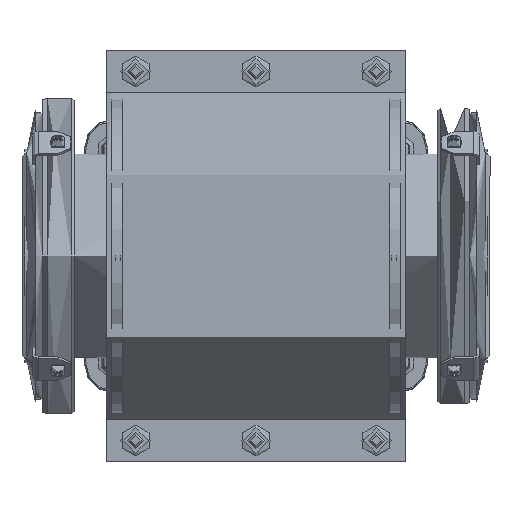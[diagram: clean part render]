
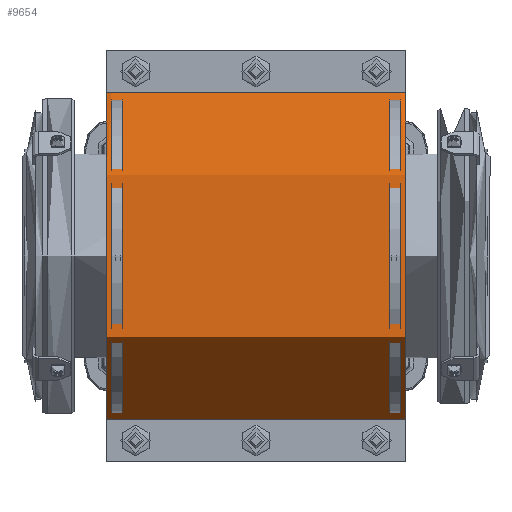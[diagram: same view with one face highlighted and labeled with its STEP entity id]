
A CAD part, front view. The second image highlights one B-rep face of the part: STEP entity #9654.
In plain terms, the highlighted cylindrical face has radius 61 mm (diameter 122 mm), a partial arc.
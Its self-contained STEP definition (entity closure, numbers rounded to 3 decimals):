
#9654=ADVANCED_FACE('',(#29885),#29887,.T.);
#29885=FACE_BOUND('',#29886,.T.);
#29886=EDGE_LOOP('',(#41775,#41776,#41777,#41778,#41779,#41780,#41781,#41782,#41783,
#41784));
#29887=CYLINDRICAL_SURFACE('',#29888,61.);
#29888=AXIS2_PLACEMENT_3D('',#29889,#29890,#29891);
#29889=CARTESIAN_POINT('',(56.,0.,-0.));
#29890=DIRECTION('',(-1.,0.,0.));
#29891=DIRECTION('',(0.,0.,-1.));
#41775=ORIENTED_EDGE('',*,*,#47760,.F.);
#41776=ORIENTED_EDGE('',*,*,#47649,.F.);
#41777=ORIENTED_EDGE('',*,*,#47750,.T.);
#41778=ORIENTED_EDGE('',*,*,#47761,.F.);
#41779=ORIENTED_EDGE('',*,*,#47701,.T.);
#41780=ORIENTED_EDGE('',*,*,#47737,.F.);
#41781=ORIENTED_EDGE('',*,*,#47711,.T.);
#41782=ORIENTED_EDGE('',*,*,#47762,.T.);
#41783=ORIENTED_EDGE('',*,*,#47741,.T.);
#41784=ORIENTED_EDGE('',*,*,#47630,.F.);
#47630=EDGE_CURVE('',#52501,#52503,#52504,.T.);
#47649=EDGE_CURVE('',#52530,#52532,#52533,.F.);
#47701=EDGE_CURVE('',#52614,#52462,#52615,.F.);
#47711=EDGE_CURVE('',#52454,#52630,#52632,.F.);
#47737=EDGE_CURVE('',#52454,#52462,#52672,.T.);
#47741=EDGE_CURVE('',#52678,#52503,#52679,.T.);
#47750=EDGE_CURVE('',#52530,#52688,#52690,.T.);
#47760=EDGE_CURVE('',#52532,#52501,#52706,.F.);
#47761=EDGE_CURVE('',#52614,#52688,#52707,.T.);
#47762=EDGE_CURVE('',#52630,#52678,#52708,.T.);
#52454=VERTEX_POINT('',#67324);
#52462=VERTEX_POINT('',#67342);
#52501=VERTEX_POINT('',#67439);
#52503=VERTEX_POINT('',#67443);
#52504=CIRCLE('',#67444,61.);
#52530=VERTEX_POINT('',#67507);
#52532=VERTEX_POINT('',#67511);
#52533=CIRCLE('',#67512,61.);
#52614=VERTEX_POINT('',#69466);
#52615=LINE('',#69467,#69468);
#52630=VERTEX_POINT('',#69500);
#52632=LINE('',#69504,#69505);
#52672=LINE('',#69682,#69683);
#52678=VERTEX_POINT('',#69698);
#52679=LINE('',#69699,#69700);
#52688=VERTEX_POINT('',#69724);
#52690=LINE('',#69728,#69729);
#52706=LINE('',#69764,#69765);
#52707=CIRCLE('',#69767,61.);
#52708=CIRCLE('',#69771,61.);
#67324=CARTESIAN_POINT('',(54.,-1.,-60.992));
#67342=CARTESIAN_POINT('',(-54.,-1.,-60.992));
#67439=CARTESIAN_POINT('',(54.,-2.,60.967));
#67443=CARTESIAN_POINT('',(54.,-1.,60.992));
#67444=AXIS2_PLACEMENT_3D('',#67445,#67446,#67447);
#67445=CARTESIAN_POINT('',(54.,0.,0.));
#67446=DIRECTION('',(-1.,0.,0.));
#67447=DIRECTION('',(0.,-0.033,0.999));
#67507=CARTESIAN_POINT('',(-54.,-1.,60.992));
#67511=CARTESIAN_POINT('',(-54.,-2.,60.967));
#67512=AXIS2_PLACEMENT_3D('',#67513,#67514,#67515);
#67513=CARTESIAN_POINT('',(-54.,0.,0.));
#67514=DIRECTION('',(-1.,0.,0.));
#67515=DIRECTION('',(0.,-0.033,0.999));
#69466=CARTESIAN_POINT('',(-56.,-1.,-60.992));
#69467=CARTESIAN_POINT('',(-54.,-1.,-60.992));
#69468=VECTOR('',#69469,1.);
#69469=DIRECTION('',(-1.,0.,0.));
#69500=CARTESIAN_POINT('',(56.,-1.,-60.992));
#69504=CARTESIAN_POINT('',(56.,-1.,-60.992));
#69505=VECTOR('',#69506,1.);
#69506=DIRECTION('',(-1.,0.,0.));
#69682=CARTESIAN_POINT('',(54.,-1.,-60.992));
#69683=VECTOR('',#69684,1.);
#69684=DIRECTION('',(-1.,0.,0.));
#69698=CARTESIAN_POINT('',(56.,-1.,60.992));
#69699=CARTESIAN_POINT('',(56.,-1.,60.992));
#69700=VECTOR('',#69701,1.);
#69701=DIRECTION('',(-1.,0.,0.));
#69724=CARTESIAN_POINT('',(-56.,-1.,60.992));
#69728=CARTESIAN_POINT('',(-54.,-1.,60.992));
#69729=VECTOR('',#69730,1.);
#69730=DIRECTION('',(-1.,0.,0.));
#69764=CARTESIAN_POINT('',(54.,-2.,60.967));
#69765=VECTOR('',#69766,1.);
#69766=DIRECTION('',(-1.,0.,0.));
#69767=AXIS2_PLACEMENT_3D('',#69768,#69769,#69770);
#69768=CARTESIAN_POINT('',(-56.,0.,0.));
#69769=DIRECTION('',(-1.,0.,0.));
#69770=DIRECTION('',(0.,-0.016,-1.));
#69771=AXIS2_PLACEMENT_3D('',#69772,#69773,#69774);
#69772=CARTESIAN_POINT('',(56.,0.,0.));
#69773=DIRECTION('',(-1.,0.,0.));
#69774=DIRECTION('',(0.,-0.016,-1.));
